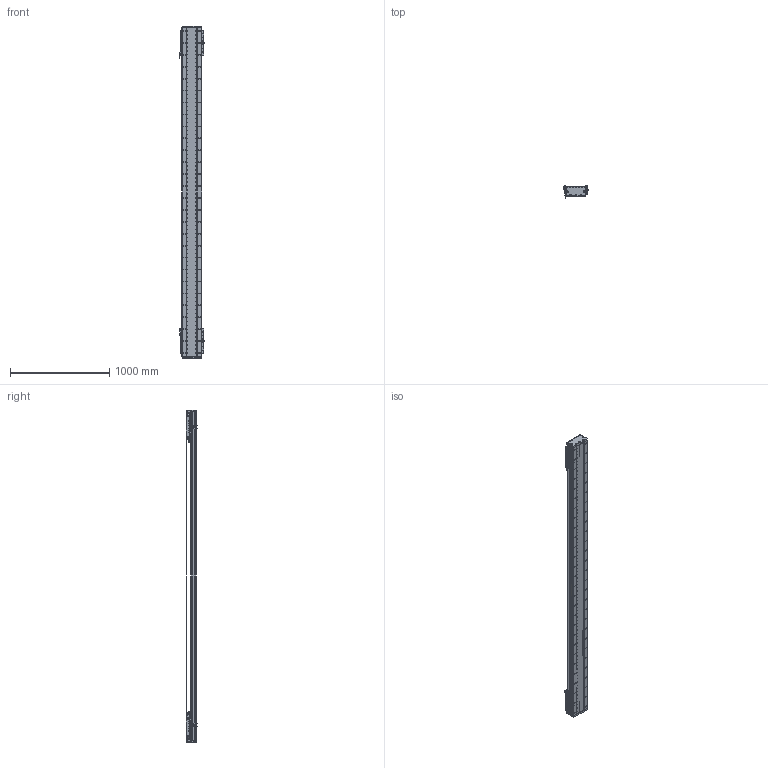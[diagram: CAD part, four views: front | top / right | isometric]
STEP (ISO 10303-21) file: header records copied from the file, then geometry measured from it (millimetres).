
FILE_DESCRIPTION (( 'STEP AP203' ), '1' );
FILE_NAME ('DA-C195-2-C3-T2720-C010-0.2 眻盄萇儂.STEP', '2025-08-15T00:51:49', ( '' ), ( '' ), 'SwSTEP 2.0', 'SolidWorks 2019', '' );
FILE_SCHEMA (( 'CONFIG_CONTROL_DESIGN' ));
Length unit declared in the file: millimetre
Products named in the file (19): MS200 棠掑喜S315-T240; PM-T45ㄗ侂狟ㄘ; DA195詩湍裔啣; DKW-GYP-ZJ-00 笢潔嫖萇覜茼え; 葩璃 DA95-GT-T-00; LMT黍杅芛; CU195-C3賑輸-俋楷; DA195詩湍郪璃; DA95-HXJ-00 遣喳砎蝶; IU-CU195-L-00 菁釱(L3300); DA195詩湍菜輸; IU-CU195-L 菁釱絳寢; DKW168-HXJ-ZJ-00 笢潔滅袉砎蝶; DKW-KGZ-ZJ-00 中间光电开关支架; DA165-GYP-00 光电感应片(默认); DA-C195-GD-DB-H-00 傷啣; DA195詩湍嶺輸; DA-C195-2-C3-T2720-C010-0.2 眻盄萇儂; PM-Y65嫖萇羲壽郪璃
Assembly tree (37 placements, depth 3):
  DA-C195-2-C3-T2720-C010-0.2 眻盄萇儂
    DA195詩湍郪璃
      DA195詩湍菜輸  x2
      DA195詩湍裔啣
      DA195詩湍嶺輸  x2
      DA95-HXJ-00 遣喳砎蝶  x8
      DA-C195-GD-DB-H-00 傷啣  x2
    IU-CU195-L 菁釱絳寢
      IU-CU195-L-00 菁釱(L3300)
      葩璃 DA95-GT-T-00  x4
    LMT黍杅芛  x2
    MS200 棠掑喜S315-T240
    PM-T45ㄗ侂狟ㄘ  x4
    DA165-GYP-00 光电感应片(默认)  x2
    PM-Y65嫖萇羲壽郪璃
    DKW168-HXJ-ZJ-00 笢潔滅袉砎蝶
    DKW-GYP-ZJ-00 笢潔嫖萇覜茼え
    DKW-KGZ-ZJ-00 中间光电开关支架
    CU195-C3賑輸-俋楷  x2
Bounding box: 258.2 x 115.45 x 3340 mm (x, y, z)
Volume: 20643571.7 mm3; surface area: 5996589.4 mm2
Topology: 154 solids, 218 shells, 7201 faces, 19623 edges, 12277 vertices
Faces by surface type: cylinder 3586, plane 2563, cone 884, torus 88, sphere 72, bspline 8
Entity records: 165883 total; most frequent: CARTESIAN_POINT 46413, ORIENTED_EDGE 25262, DIRECTION 23624, EDGE_CURVE 12631, AXIS2_PLACEMENT_3D 8725, VERTEX_POINT 8202, LINE 6174, VECTOR 6174
